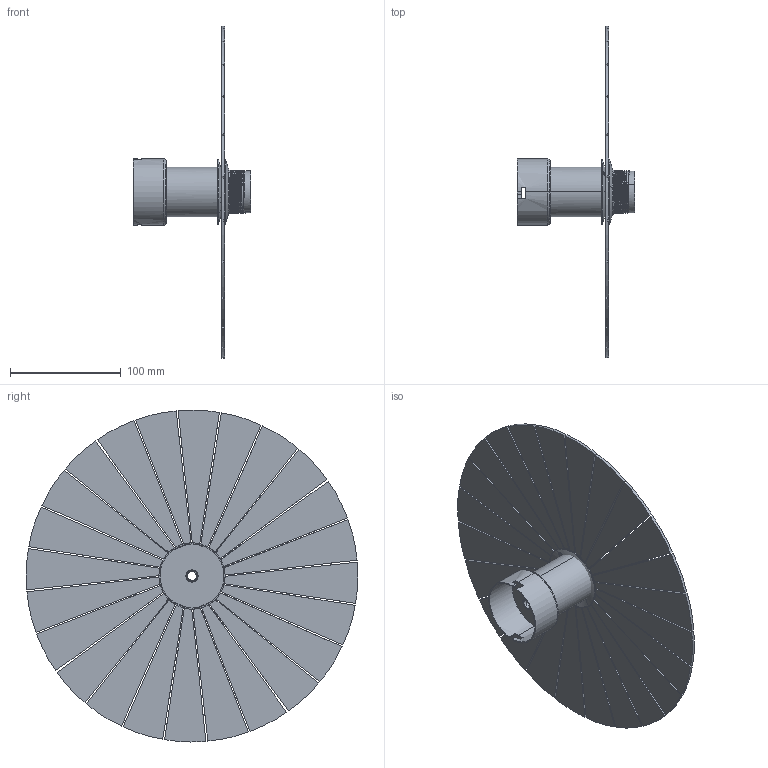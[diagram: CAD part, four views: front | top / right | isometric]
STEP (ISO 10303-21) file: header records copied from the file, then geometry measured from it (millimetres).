
FILE_DESCRIPTION (( 'STEP AP214' ), '1' );
FILE_NAME ('A1141.STEP', '2026-06-09T11:05:40', ( '' ), ( '' ), 'SwSTEP 2.0', 'SolidWorks 2023', '' );
FILE_SCHEMA (( 'AUTOMOTIVE_DESIGN' ));
Length unit declared in the file: inch
Products named in the file (1): A1141
Bounding box: 106.74 x 300.36 x 300.36 mm (x, y, z)
Volume: 222854.4 mm3; surface area: 201759.1 mm2
Topology: 4 solids, 4 shells, 392 faces, 1139 edges, 753 vertices
Faces by surface type: bspline 271, plane 96, cylinder 25
Entity records: 68576 total; most frequent: CARTESIAN_POINT 61204, ORIENTED_EDGE 2276, EDGE_CURVE 1138, VERTEX_POINT 753, B_SPLINE_CURVE_WITH_KNOTS 698, DIRECTION 525, EDGE_LOOP 403, FACE_OUTER_BOUND 392
